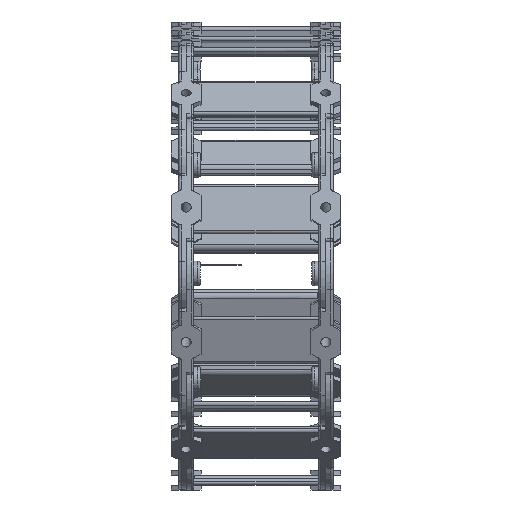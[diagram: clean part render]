
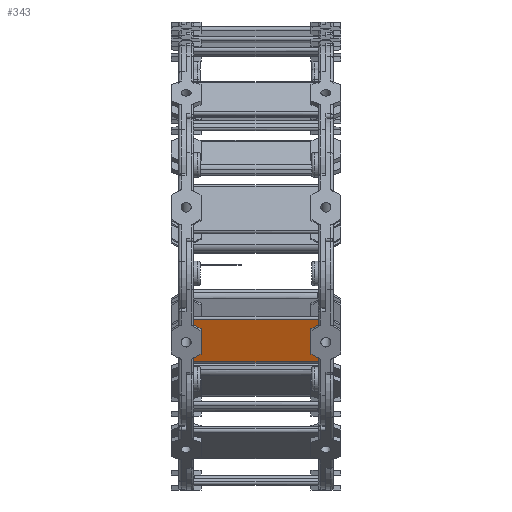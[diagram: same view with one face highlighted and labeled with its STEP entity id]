
A CAD part, front view. The second image highlights one B-rep face of the part: STEP entity #343.
In plain terms, the highlighted planar face has unit normal (0, -0.939, -0.345) as drawn and (0, 0, -1) by its records, which use the part's own axes.
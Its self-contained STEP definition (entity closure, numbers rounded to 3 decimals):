
#240=CARTESIAN_POINT('',(-2.6,27.,4.));
#241=DIRECTION('',(0.0,0.0,-1.0));
#242=DIRECTION('',(0.0,-1.0,0.0));
#243=AXIS2_PLACEMENT_3D('',#240,#241,#242);
#244=PLANE('',#243);
#245=CARTESIAN_POINT('',(112.,58.464,4.));
#246=VERTEX_POINT('',#245);
#247=CARTESIAN_POINT('',(106.,55.0,4.));
#248=VERTEX_POINT('',#247);
#249=CARTESIAN_POINT('',(112.,58.464,4.));
#250=DIRECTION('',(-0.866,-0.5,0.));
#251=VECTOR('',#250,6.928);
#252=LINE('',#249,#251);
#253=EDGE_CURVE('',#246,#248,#252,.T.);
#254=ORIENTED_EDGE('',*,*,#253,.T.);
#255=CARTESIAN_POINT('',(106.,35.,4.));
#256=VERTEX_POINT('',#255);
#257=CARTESIAN_POINT('',(106.,55.0,4.));
#258=DIRECTION('',(0.0,-1.0,0.0));
#259=VECTOR('',#258,20.);
#260=LINE('',#257,#259);
#261=EDGE_CURVE('',#248,#256,#260,.T.);
#262=ORIENTED_EDGE('',*,*,#261,.T.);
#263=CARTESIAN_POINT('',(112.,31.536,4.));
#264=VERTEX_POINT('',#263);
#265=CARTESIAN_POINT('',(106.,35.,4.));
#266=DIRECTION('',(0.866,-0.5,0.0));
#267=VECTOR('',#266,6.928);
#268=LINE('',#265,#267);
#269=EDGE_CURVE('',#256,#264,#268,.T.);
#270=ORIENTED_EDGE('',*,*,#269,.T.);
#271=CARTESIAN_POINT('',(112.,27.,4.));
#272=VERTEX_POINT('',#271);
#273=CARTESIAN_POINT('',(112.,27.,4.));
#274=DIRECTION('',(0.0,1.0,0.0));
#275=VECTOR('',#274,4.536);
#276=LINE('',#273,#275);
#277=EDGE_CURVE('',#272,#264,#276,.T.);
#278=ORIENTED_EDGE('',*,*,#277,.F.);
#279=CARTESIAN_POINT('',(12.,27.,4.));
#280=VERTEX_POINT('',#279);
#281=CARTESIAN_POINT('',(112.,27.,4.));
#282=DIRECTION('',(-1.0,0.0,0.0));
#283=VECTOR('',#282,100.);
#284=LINE('',#281,#283);
#285=EDGE_CURVE('',#272,#280,#284,.T.);
#286=ORIENTED_EDGE('',*,*,#285,.T.);
#287=CARTESIAN_POINT('',(12.,31.536,4.));
#288=VERTEX_POINT('',#287);
#289=CARTESIAN_POINT('',(12.,31.536,4.));
#290=DIRECTION('',(0.0,-1.0,0.0));
#291=VECTOR('',#290,4.536);
#292=LINE('',#289,#291);
#293=EDGE_CURVE('',#288,#280,#292,.T.);
#294=ORIENTED_EDGE('',*,*,#293,.F.);
#295=CARTESIAN_POINT('',(18.,35.0,4.));
#296=VERTEX_POINT('',#295);
#297=CARTESIAN_POINT('',(12.,31.536,4.));
#298=DIRECTION('',(0.866,0.5,0.));
#299=VECTOR('',#298,6.928);
#300=LINE('',#297,#299);
#301=EDGE_CURVE('',#288,#296,#300,.T.);
#302=ORIENTED_EDGE('',*,*,#301,.T.);
#303=CARTESIAN_POINT('',(18.,55.,4.));
#304=VERTEX_POINT('',#303);
#305=CARTESIAN_POINT('',(18.,35.0,4.));
#306=DIRECTION('',(0.0,1.0,0.0));
#307=VECTOR('',#306,20.);
#308=LINE('',#305,#307);
#309=EDGE_CURVE('',#296,#304,#308,.T.);
#310=ORIENTED_EDGE('',*,*,#309,.T.);
#311=CARTESIAN_POINT('',(12.,58.464,4.));
#312=VERTEX_POINT('',#311);
#313=CARTESIAN_POINT('',(18.,55.,4.));
#314=DIRECTION('',(-0.866,0.5,0.0));
#315=VECTOR('',#314,6.928);
#316=LINE('',#313,#315);
#317=EDGE_CURVE('',#304,#312,#316,.T.);
#318=ORIENTED_EDGE('',*,*,#317,.T.);
#319=CARTESIAN_POINT('',(12.,63.,4.));
#320=VERTEX_POINT('',#319);
#321=CARTESIAN_POINT('',(12.,63.,4.));
#322=DIRECTION('',(0.0,-1.0,0.0));
#323=VECTOR('',#322,4.536);
#324=LINE('',#321,#323);
#325=EDGE_CURVE('',#320,#312,#324,.T.);
#326=ORIENTED_EDGE('',*,*,#325,.F.);
#327=CARTESIAN_POINT('',(112.,63.,4.));
#328=VERTEX_POINT('',#327);
#329=CARTESIAN_POINT('',(112.,63.,4.));
#330=DIRECTION('',(-1.0,0.0,0.0));
#331=VECTOR('',#330,100.);
#332=LINE('',#329,#331);
#333=EDGE_CURVE('',#328,#320,#332,.T.);
#334=ORIENTED_EDGE('',*,*,#333,.F.);
#335=CARTESIAN_POINT('',(112.,58.464,4.));
#336=DIRECTION('',(0.0,1.0,0.0));
#337=VECTOR('',#336,4.536);
#338=LINE('',#335,#337);
#339=EDGE_CURVE('',#246,#328,#338,.T.);
#340=ORIENTED_EDGE('',*,*,#339,.F.);
#341=EDGE_LOOP('',(#254,#262,#270,#278,#286,#294,#302,#310,#318,#326,#334,#340));
#342=FACE_OUTER_BOUND('',#341,.T.);
#343=ADVANCED_FACE('',(#342),#244,.T.);
